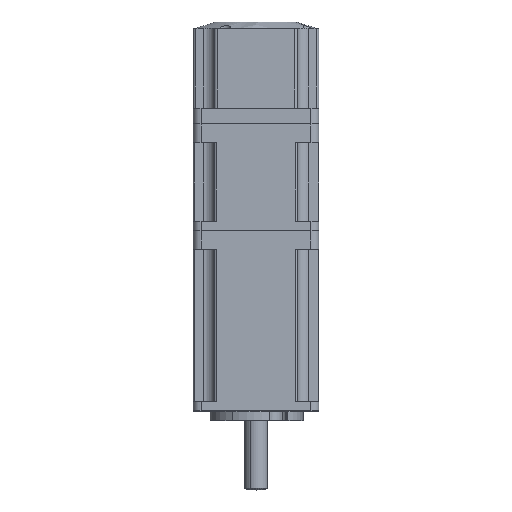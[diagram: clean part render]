
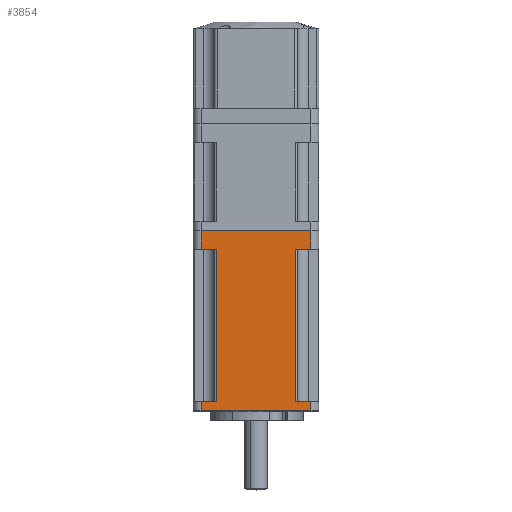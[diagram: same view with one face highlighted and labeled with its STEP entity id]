
A CAD part, top view. The second image highlights one B-rep face of the part: STEP entity #3854.
In plain terms, the highlighted planar face has unit normal (0, 0, 1).
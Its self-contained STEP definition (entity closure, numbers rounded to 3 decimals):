
#97 = EDGE_CURVE ( 'NONE', #5074, #6150, #4663, .T. ) ;
#166 = DIRECTION ( 'NONE',  ( 0., -1., 0. ) ) ;
#630 = ORIENTED_EDGE ( 'NONE', *, *, #9440, .T. ) ;
#661 = CARTESIAN_POINT ( 'NONE',  ( -1.039, 4.969, 73.692 ) ) ;
#957 = VERTEX_POINT ( 'NONE', #2475 ) ;
#1075 = CARTESIAN_POINT ( 'NONE',  ( 3.761, 7.969, 73.692 ) ) ;
#1112 = VECTOR ( 'NONE', #6337, 1000. ) ;
#1221 = VERTEX_POINT ( 'NONE', #2619 ) ;
#1312 = VERTEX_POINT ( 'NONE', #10334 ) ;
#1570 = DIRECTION ( 'NONE',  ( -1., 0., 0. ) ) ;
#1612 = ORIENTED_EDGE ( 'NONE', *, *, #10345, .F. ) ;
#1726 = VECTOR ( 'NONE', #1570, 1000. ) ;
#1958 = LINE ( 'NONE', #4408, #4367 ) ;
#1974 = CARTESIAN_POINT ( 'NONE',  ( -3.539, 56.469, 73.692 ) ) ;
#2015 = CARTESIAN_POINT ( 'NONE',  ( 16.461, 62.469, 73.692 ) ) ;
#2035 = LINE ( 'NONE', #6683, #1726 ) ;
#2103 = VERTEX_POINT ( 'NONE', #8790 ) ;
#2170 = VECTOR ( 'NONE', #7107, 1000. ) ;
#2367 = CARTESIAN_POINT ( 'NONE',  ( -1.039, 4.969, 73.692 ) ) ;
#2475 = CARTESIAN_POINT ( 'NONE',  ( -1.039, 62.469, 73.692 ) ) ;
#2613 = CARTESIAN_POINT ( 'NONE',  ( -3.539, 4.969, 73.692 ) ) ;
#2619 = CARTESIAN_POINT ( 'NONE',  ( -1.039, 7.969, 73.692 ) ) ;
#3243 = CARTESIAN_POINT ( 'NONE',  ( 29.161, 4.969, 73.692 ) ) ;
#3641 = DIRECTION ( 'NONE',  ( 0., 0., 1. ) ) ;
#3701 = CARTESIAN_POINT ( 'NONE',  ( 29.161, 7.969, 73.692 ) ) ;
#3854 = ADVANCED_FACE ( 'NONE', ( #9969 ), #8726, .T. ) ;
#3884 = LINE ( 'NONE', #1974, #5651 ) ;
#3926 = VERTEX_POINT ( 'NONE', #5746 ) ;
#4077 = ORIENTED_EDGE ( 'NONE', *, *, #6703, .T. ) ;
#4221 = VERTEX_POINT ( 'NONE', #5230 ) ;
#4367 = VECTOR ( 'NONE', #7501, 1000. ) ;
#4370 = LINE ( 'NONE', #5225, #6786 ) ;
#4408 = CARTESIAN_POINT ( 'NONE',  ( -3.539, 56.469, 73.692 ) ) ;
#4663 = LINE ( 'NONE', #8753, #9763 ) ;
#4815 = EDGE_CURVE ( 'NONE', #6150, #1221, #6303, .T. ) ;
#5074 = VERTEX_POINT ( 'NONE', #10780 ) ;
#5124 = ORIENTED_EDGE ( 'NONE', *, *, #10068, .T. ) ;
#5225 = CARTESIAN_POINT ( 'NONE',  ( 33.961, 4.969, 73.692 ) ) ;
#5230 = CARTESIAN_POINT ( 'NONE',  ( 29.161, 56.469, 73.692 ) ) ;
#5341 = CARTESIAN_POINT ( 'NONE',  ( 33.961, 56.469, 73.692 ) ) ;
#5403 = EDGE_LOOP ( 'NONE', ( #12154, #9284, #5730, #10402, #1612, #8083, #5124, #4077, #10631, #6146, #630, #8253 ) ) ;
#5424 = CARTESIAN_POINT ( 'NONE',  ( 33.961, 4.969, 73.692 ) ) ;
#5492 = VERTEX_POINT ( 'NONE', #5341 ) ;
#5585 = CARTESIAN_POINT ( 'NONE',  ( -1.039, 4.969, 73.692 ) ) ;
#5651 = VECTOR ( 'NONE', #7095, 1000. ) ;
#5730 = ORIENTED_EDGE ( 'NONE', *, *, #11444, .T. ) ;
#5746 = CARTESIAN_POINT ( 'NONE',  ( -1.039, 56.469, 73.692 ) ) ;
#5911 = LINE ( 'NONE', #5424, #8619 ) ;
#6135 = DIRECTION ( 'NONE',  ( -1., 0., 0. ) ) ;
#6146 = ORIENTED_EDGE ( 'NONE', *, *, #4815, .T. ) ;
#6150 = VERTEX_POINT ( 'NONE', #1075 ) ;
#6303 = LINE ( 'NONE', #11158, #9311 ) ;
#6316 = EDGE_CURVE ( 'NONE', #4221, #5492, #1958, .T. ) ;
#6337 = DIRECTION ( 'NONE',  ( 0., 1., 0. ) ) ;
#6683 = CARTESIAN_POINT ( 'NONE',  ( -3.539, 7.969, 73.692 ) ) ;
#6703 = EDGE_CURVE ( 'NONE', #3926, #5074, #3884, .T. ) ;
#6786 = VECTOR ( 'NONE', #166, 1000. ) ;
#7095 = DIRECTION ( 'NONE',  ( 1., 0., 0. ) ) ;
#7107 = DIRECTION ( 'NONE',  ( 1., 0., 0. ) ) ;
#7169 = VERTEX_POINT ( 'NONE', #3701 ) ;
#7306 = LINE ( 'NONE', #13131, #2170 ) ;
#7501 = DIRECTION ( 'NONE',  ( 1., 0., 0. ) ) ;
#7815 = DIRECTION ( 'NONE',  ( 0., -1., 0. ) ) ;
#8083 = ORIENTED_EDGE ( 'NONE', *, *, #10276, .F. ) ;
#8085 = LINE ( 'NONE', #5585, #10431 ) ;
#8172 = AXIS2_PLACEMENT_3D ( 'NONE', #2613, #3641, #10738 ) ;
#8253 = ORIENTED_EDGE ( 'NONE', *, *, #8789, .T. ) ;
#8619 = VECTOR ( 'NONE', #11499, 1000. ) ;
#8657 = DIRECTION ( 'NONE',  ( 0., -1., 0. ) ) ;
#8726 = PLANE ( 'NONE',  #8172 ) ;
#8753 = CARTESIAN_POINT ( 'NONE',  ( 3.761, 4.969, 73.692 ) ) ;
#8789 = EDGE_CURVE ( 'NONE', #12162, #2103, #7306, .T. ) ;
#8790 = CARTESIAN_POINT ( 'NONE',  ( 33.961, 4.969, 73.692 ) ) ;
#9284 = ORIENTED_EDGE ( 'NONE', *, *, #12263, .T. ) ;
#9311 = VECTOR ( 'NONE', #6135, 1000. ) ;
#9440 = EDGE_CURVE ( 'NONE', #1221, #12162, #8085, .T. ) ;
#9763 = VECTOR ( 'NONE', #11737, 1000. ) ;
#9969 = FACE_OUTER_BOUND ( 'NONE', #5403, .T. ) ;
#10068 = EDGE_CURVE ( 'NONE', #957, #3926, #11196, .T. ) ;
#10276 = EDGE_CURVE ( 'NONE', #957, #1312, #13088, .T. ) ;
#10334 = CARTESIAN_POINT ( 'NONE',  ( 33.961, 62.469, 73.692 ) ) ;
#10345 = EDGE_CURVE ( 'NONE', #1312, #5492, #4370, .T. ) ;
#10402 = ORIENTED_EDGE ( 'NONE', *, *, #6316, .T. ) ;
#10406 = VECTOR ( 'NONE', #12190, 1000. ) ;
#10431 = VECTOR ( 'NONE', #8657, 1000. ) ;
#10568 = VECTOR ( 'NONE', #7815, 1000. ) ;
#10631 = ORIENTED_EDGE ( 'NONE', *, *, #97, .T. ) ;
#10738 = DIRECTION ( 'NONE',  ( 1., 0., 0. ) ) ;
#10780 = CARTESIAN_POINT ( 'NONE',  ( 3.761, 56.469, 73.692 ) ) ;
#10986 = VERTEX_POINT ( 'NONE', #11568 ) ;
#11158 = CARTESIAN_POINT ( 'NONE',  ( -3.539, 7.969, 73.692 ) ) ;
#11196 = LINE ( 'NONE', #661, #10568 ) ;
#11444 = EDGE_CURVE ( 'NONE', #7169, #4221, #11906, .T. ) ;
#11499 = DIRECTION ( 'NONE',  ( 0., 1., 0. ) ) ;
#11525 = EDGE_CURVE ( 'NONE', #2103, #10986, #5911, .T. ) ;
#11568 = CARTESIAN_POINT ( 'NONE',  ( 33.961, 7.969, 73.692 ) ) ;
#11737 = DIRECTION ( 'NONE',  ( 0., -1., 0. ) ) ;
#11906 = LINE ( 'NONE', #3243, #1112 ) ;
#12154 = ORIENTED_EDGE ( 'NONE', *, *, #11525, .T. ) ;
#12162 = VERTEX_POINT ( 'NONE', #2367 ) ;
#12190 = DIRECTION ( 'NONE',  ( 1., 0., 0. ) ) ;
#12263 = EDGE_CURVE ( 'NONE', #10986, #7169, #2035, .T. ) ;
#13088 = LINE ( 'NONE', #2015, #10406 ) ;
#13131 = CARTESIAN_POINT ( 'NONE',  ( -3.539, 4.969, 73.692 ) ) ;
